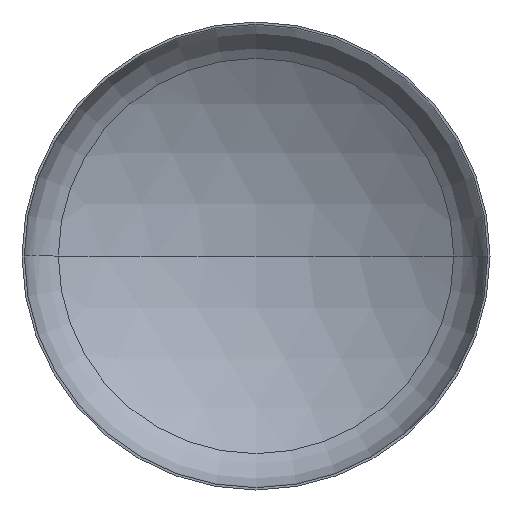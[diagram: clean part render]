
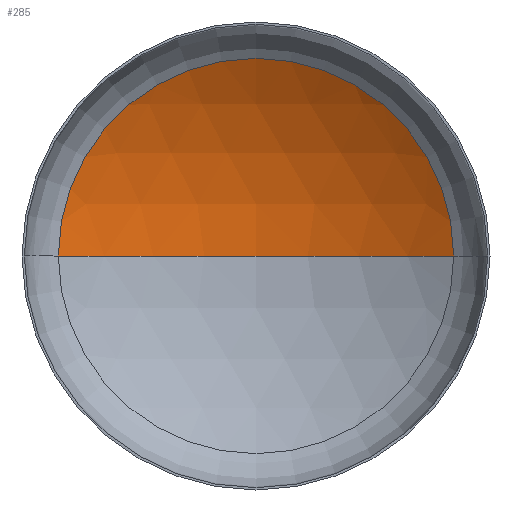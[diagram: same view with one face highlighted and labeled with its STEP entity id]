
A CAD part, front view. The second image highlights one B-rep face of the part: STEP entity #285.
In plain terms, the highlighted spherical face has radius 3040 mm.
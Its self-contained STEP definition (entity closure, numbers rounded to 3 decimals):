
#26 = EDGE_LOOP ( 'NONE', ( #61, #97, #78 ) ) ;
#61 = ORIENTED_EDGE ( 'NONE', *, *, #372, .F. ) ;
#70 = VERTEX_POINT ( 'NONE', #280 ) ;
#74 = CARTESIAN_POINT ( 'NONE',  ( 0., -2025.044, 0. ) ) ;
#78 = ORIENTED_EDGE ( 'NONE', *, *, #283, .T. ) ;
#82 = VERTEX_POINT ( 'NONE', #186 ) ;
#97 = ORIENTED_EDGE ( 'NONE', *, *, #386, .T. ) ;
#105 = VERTEX_POINT ( 'NONE', #287 ) ;
#137 = CARTESIAN_POINT ( 'NONE',  ( 0., 556.844, 0. ) ) ;
#141 = DIRECTION ( 'NONE',  ( 0., -1., 0. ) ) ;
#151 = DIRECTION ( 'NONE',  ( 1., 0., 0. ) ) ;
#161 = DIRECTION ( 'NONE',  ( 0., 0., 1. ) ) ;
#186 = CARTESIAN_POINT ( 'NONE',  ( 0., 1014.956, 0. ) ) ;
#190 = FACE_OUTER_BOUND ( 'NONE', #26, .T. ) ;
#208 = DIRECTION ( 'NONE',  ( -1., 0., 0. ) ) ;
#211 = AXIS2_PLACEMENT_3D ( 'NONE', #137, #141, #151 ) ;
#230 = CIRCLE ( 'NONE', #383, 3040. ) ;
#240 = AXIS2_PLACEMENT_3D ( 'NONE', #74, #396, #327 ) ;
#255 = CARTESIAN_POINT ( 'NONE',  ( 0., -2025.044, 0. ) ) ;
#280 = CARTESIAN_POINT ( 'NONE',  ( -1604.823, 556.844, 0. ) ) ;
#283 = EDGE_CURVE ( 'NONE', #105, #70, #393, .T. ) ;
#285 = ADVANCED_FACE ( 'NONE', ( #190 ), #388, .F. ) ;
#287 = CARTESIAN_POINT ( 'NONE',  ( 1604.823, 556.844, 0. ) ) ;
#296 = CIRCLE ( 'NONE', #349, 3040. ) ;
#316 = CARTESIAN_POINT ( 'NONE',  ( 0., -2025.044, 0. ) ) ;
#327 = DIRECTION ( 'NONE',  ( -1., 0., 0. ) ) ;
#346 = DIRECTION ( 'NONE',  ( 1., 0., 0. ) ) ;
#349 = AXIS2_PLACEMENT_3D ( 'NONE', #316, #161, #346 ) ;
#362 = DIRECTION ( 'NONE',  ( 0., 0., -1. ) ) ;
#372 = EDGE_CURVE ( 'NONE', #82, #70, #296, .T. ) ;
#383 = AXIS2_PLACEMENT_3D ( 'NONE', #255, #362, #208 ) ;
#386 = EDGE_CURVE ( 'NONE', #82, #105, #230, .T. ) ;
#388 = SPHERICAL_SURFACE ( 'NONE', #240, 3040. ) ;
#393 = CIRCLE ( 'NONE', #211, 1604.823 ) ;
#396 = DIRECTION ( 'NONE',  ( 0., 0., -1. ) ) ;
